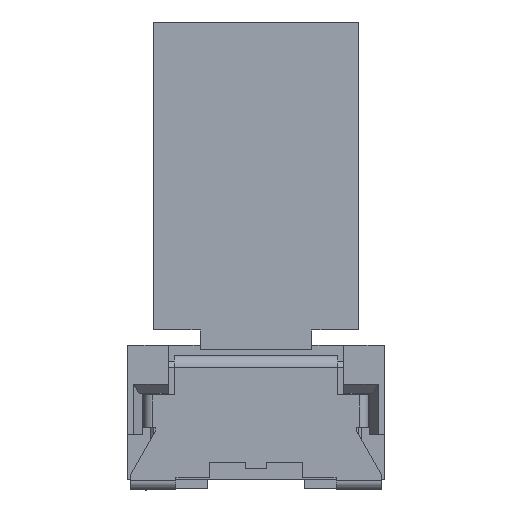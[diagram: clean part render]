
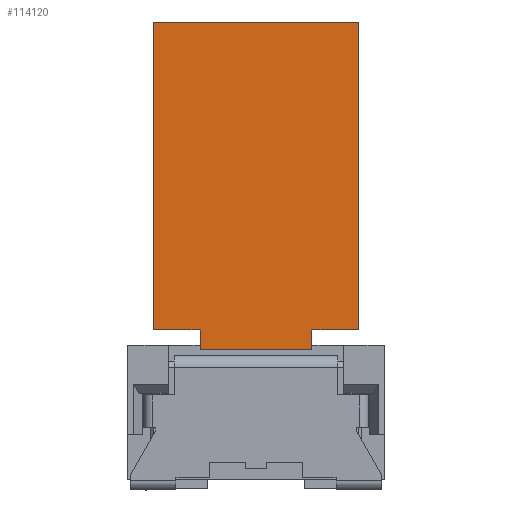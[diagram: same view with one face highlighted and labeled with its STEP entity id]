
A CAD part, left-side view. The second image highlights one B-rep face of the part: STEP entity #114120.
In plain terms, the highlighted planar face has unit normal (-1, 0, 0).
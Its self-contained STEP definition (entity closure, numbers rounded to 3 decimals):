
#41870=CARTESIAN_POINT('',(-11.054,29.1,13.848));
#41880=DIRECTION('',(0.,0.,1.));
#41890=VECTOR('',#41880,1.);
#41900=LINE('',#41870,#41890);
#41910=CARTESIAN_POINT('',(-11.054,29.1,12.9));
#41920=VERTEX_POINT('',#41910);
#41930=CARTESIAN_POINT('',(-11.054,29.1,13.55));
#41940=VERTEX_POINT('',#41930);
#41950=EDGE_CURVE('',#41920,#41940,#41900,.T.);
#42340=CARTESIAN_POINT('',(-11.054,30.22,12.9));
#42350=DIRECTION('',(0.,-1.,0.));
#42360=VECTOR('',#42350,1.);
#42370=LINE('',#42340,#42360);
#42380=CARTESIAN_POINT('',(-11.054,25.4,12.9));
#42390=VERTEX_POINT('',#42380);
#42400=EDGE_CURVE('',#41920,#42390,#42370,.T.);
#113570=CARTESIAN_POINT('',(-11.054,23.85,23.75));
#113580=DIRECTION('',(-1.,0.,0.));
#113590=DIRECTION('',(0.,0.,1.));
#113600=AXIS2_PLACEMENT_3D('',#113570,#113580,#113590);
#113610=PLANE('',#113600);
#113620=ORIENTED_EDGE('',*,*,#42400,.T.);
#113630=ORIENTED_EDGE('',*,*,#41950,.F.);
#113640=CARTESIAN_POINT('',(-11.054,30.22,13.55));
#113650=DIRECTION('',(0.,1.,0.));
#113660=VECTOR('',#113650,1.);
#113670=LINE('',#113640,#113660);
#113680=CARTESIAN_POINT('',(-11.054,30.65,13.55));
#113690=VERTEX_POINT('',#113680);
#113700=EDGE_CURVE('',#41940,#113690,#113670,.T.);
#113710=ORIENTED_EDGE('',*,*,#113700,.F.);
#113720=CARTESIAN_POINT('',(-11.054,30.65,11.165));
#113730=DIRECTION('',(0.,0.,1.));
#113740=VECTOR('',#113730,1.);
#113750=LINE('',#113720,#113740);
#113760=CARTESIAN_POINT('',(-11.054,30.65,23.75));
#113770=VERTEX_POINT('',#113760);
#113780=EDGE_CURVE('',#113690,#113770,#113750,.T.);
#113790=ORIENTED_EDGE('',*,*,#113780,.F.);
#113800=CARTESIAN_POINT('',(-11.054,30.22,23.75));
#113810=DIRECTION('',(0.,-1.,0.));
#113820=VECTOR('',#113810,1.);
#113830=LINE('',#113800,#113820);
#113840=CARTESIAN_POINT('',(-11.054,23.85,23.75));
#113850=VERTEX_POINT('',#113840);
#113860=EDGE_CURVE('',#113770,#113850,#113830,.T.);
#113870=ORIENTED_EDGE('',*,*,#113860,.F.);
#113880=CARTESIAN_POINT('',(-11.054,23.85,11.165));
#113890=DIRECTION('',(0.,0.,-1.));
#113900=VECTOR('',#113890,1.);
#113910=LINE('',#113880,#113900);
#113920=CARTESIAN_POINT('',(-11.054,23.85,13.55));
#113930=VERTEX_POINT('',#113920);
#113940=EDGE_CURVE('',#113850,#113930,#113910,.T.);
#113950=ORIENTED_EDGE('',*,*,#113940,.F.);
#113960=CARTESIAN_POINT('',(-11.054,30.22,13.55));
#113970=DIRECTION('',(0.,1.,0.));
#113980=VECTOR('',#113970,1.);
#113990=LINE('',#113960,#113980);
#114000=CARTESIAN_POINT('',(-11.054,25.4,13.55));
#114010=VERTEX_POINT('',#114000);
#114020=EDGE_CURVE('',#113930,#114010,#113990,.T.);
#114030=ORIENTED_EDGE('',*,*,#114020,.F.);
#114040=CARTESIAN_POINT('',(-11.054,25.4,13.848));
#114050=DIRECTION('',(0.,0.,1.));
#114060=VECTOR('',#114050,1.);
#114070=LINE('',#114040,#114060);
#114080=EDGE_CURVE('',#42390,#114010,#114070,.T.);
#114090=ORIENTED_EDGE('',*,*,#114080,.T.);
#114100=EDGE_LOOP('',(#114090,#114030,#113950,#113870,#113790,#113710,
#113630,#113620));
#114110=FACE_OUTER_BOUND('',#114100,.T.);
#114120=ADVANCED_FACE('',(#114110),#113610,.T.);
